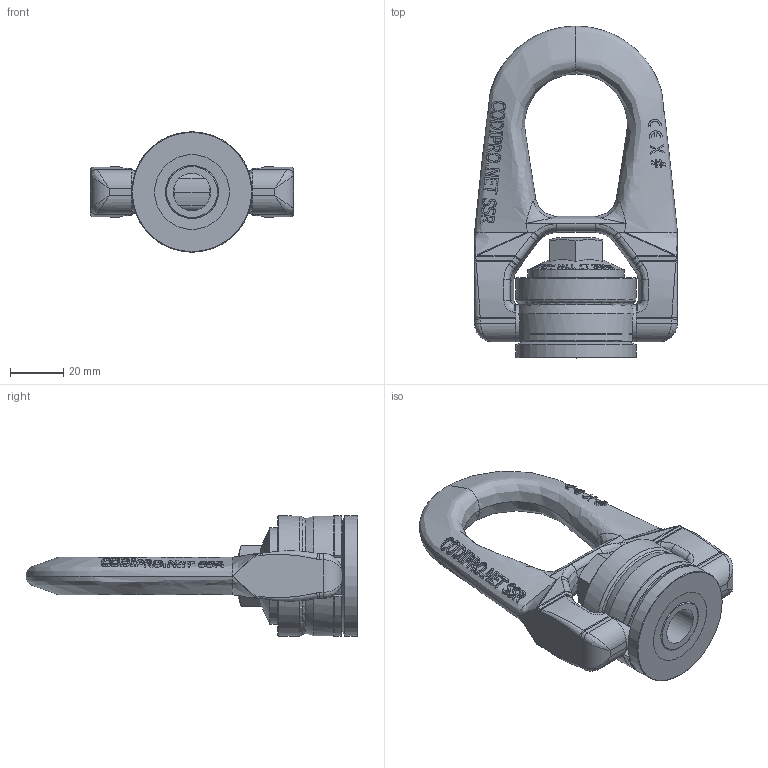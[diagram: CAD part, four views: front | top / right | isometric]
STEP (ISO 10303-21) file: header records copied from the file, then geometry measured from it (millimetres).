
FILE_DESCRIPTION(/* description */ (''),/* implementation_level */ '2;1');
FILE_NAME(/* name */ 'W:\CODIPRO\DOCUMENTS\Plans A NE PAS DIFFUSER !!!\Inventor\Standard Inventor\Produit Fini Inventor\SS_FE_DSR\Fichiers 3D\SS FE DSR M14.stp',/* time_stamp */ '2017-10-06T08:26:40+02:00',/* author */ ('rklenes'),/* organization */ (''),/* preprocessor_version */ 'ST-DEVELOPER v16.5',/* originating_system */ 'Autodesk Inventor 2017',/* authorisation */ '');
FILE_SCHEMA (('AUTOMOTIVE_DESIGN { 1 0 10303 214 3 1 1 }'));
Products named in the file (5): SS FE DSR M14; DRM_AF2B-1; DRB_B2B; SS_FE_DRA_M14; DRE_D2M20A
Assembly tree (4 placements, depth 2):
  SS FE DSR M14
    DRM_AF2B-1
    DRB_B2B
    SS_FE_DRA_M14
    DRE_D2M20A
Bounding box: 76 x 124.25 x 45 mm (x, y, z)
Volume: 101290.5 mm3; surface area: 37031.8 mm2
Topology: 4 solids, 4 shells, 769 faces, 2025 edges, 1292 vertices
Faces by surface type: plane 352, bspline 294, cylinder 81, cone 30, torus 11, sphere 1
Full cylindrical faces by diameter (mm): 14 x3, 19.85 x3, 20.05 x1, 22.6 x2, 23 x2, 32 x1, 36 x1, 45 x2
Entity records: 42821 total; most frequent: CARTESIAN_POINT 25947, ORIENTED_EDGE 3956, DIRECTION 2698, EDGE_CURVE 1978, VERTEX_POINT 1288, AXIS2_PLACEMENT_3D 1003, EDGE_LOOP 848, FACE_OUTER_BOUND 769
